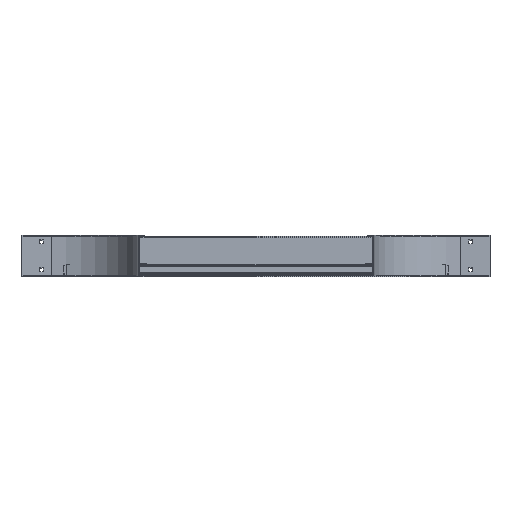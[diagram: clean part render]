
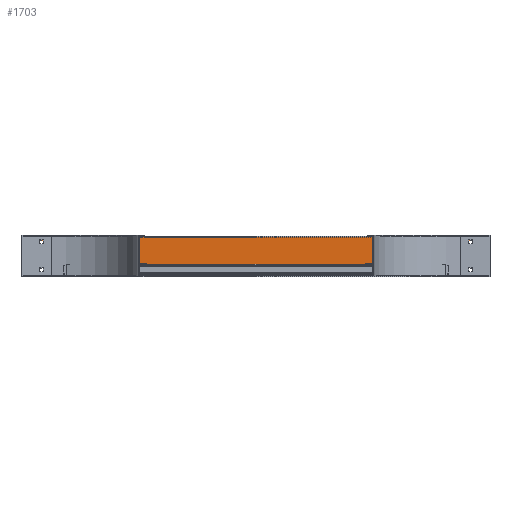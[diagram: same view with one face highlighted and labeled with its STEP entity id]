
A CAD part, top view. The second image highlights one B-rep face of the part: STEP entity #1703.
In plain terms, the highlighted planar face has unit normal (0, 0, 1) as drawn and (0, 1, 0) by its records, which use the part's own axes.
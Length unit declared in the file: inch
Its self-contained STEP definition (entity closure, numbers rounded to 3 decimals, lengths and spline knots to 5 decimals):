
#1161=DIRECTION('',(-1.,0.,0.));
#1162=VECTOR('',#1161,3.995);
#1163=CARTESIAN_POINT('',(-0.09,0.09,-24.09));
#1164=LINE('',#1163,#1162);
#1253=DIRECTION('',(0.,0.,1.));
#1254=VECTOR('',#1253,48.18);
#1255=CARTESIAN_POINT('',(-4.085,0.09,-24.09));
#1256=LINE('',#1255,#1254);
#1257=DIRECTION('',(0.,0.,1.));
#1258=VECTOR('',#1257,48.18);
#1259=CARTESIAN_POINT('',(-0.09,0.09,-24.09));
#1260=LINE('',#1259,#1258);
#1261=DIRECTION('',(0.,0.,1.));
#1262=VECTOR('',#1261,0.41);
#1263=CARTESIAN_POINT('',(-0.465,0.09,-22.335));
#1264=LINE('',#1263,#1262);
#1265=DIRECTION('',(1.,0.,0.));
#1266=VECTOR('',#1265,0.41);
#1267=CARTESIAN_POINT('',(-0.875,0.09,-22.335));
#1268=LINE('',#1267,#1266);
#1269=DIRECTION('',(0.,0.,-1.));
#1270=VECTOR('',#1269,0.41);
#1271=CARTESIAN_POINT('',(-0.875,0.09,-21.925));
#1272=LINE('',#1271,#1270);
#1273=DIRECTION('',(-1.,0.,0.));
#1274=VECTOR('',#1273,0.41);
#1275=CARTESIAN_POINT('',(-0.465,0.09,-21.925));
#1276=LINE('',#1275,#1274);
#1277=DIRECTION('',(1.,0.,0.));
#1278=VECTOR('',#1277,0.41);
#1279=CARTESIAN_POINT('',(-3.71,0.09,-22.335));
#1280=LINE('',#1279,#1278);
#1281=DIRECTION('',(0.,0.,-1.));
#1282=VECTOR('',#1281,0.41);
#1283=CARTESIAN_POINT('',(-3.71,0.09,-21.925));
#1284=LINE('',#1283,#1282);
#1285=DIRECTION('',(-1.,0.,0.));
#1286=VECTOR('',#1285,0.41);
#1287=CARTESIAN_POINT('',(-3.3,0.09,-21.925));
#1288=LINE('',#1287,#1286);
#1289=DIRECTION('',(0.,0.,1.));
#1290=VECTOR('',#1289,0.41);
#1291=CARTESIAN_POINT('',(-3.3,0.09,-22.335));
#1292=LINE('',#1291,#1290);
#1293=DIRECTION('',(0.,0.,-1.));
#1294=VECTOR('',#1293,0.41);
#1295=CARTESIAN_POINT('',(-0.465,0.09,22.335));
#1296=LINE('',#1295,#1294);
#1297=DIRECTION('',(-1.,0.,0.));
#1298=VECTOR('',#1297,0.41);
#1299=CARTESIAN_POINT('',(-0.465,0.09,21.925));
#1300=LINE('',#1299,#1298);
#1301=DIRECTION('',(0.,0.,1.));
#1302=VECTOR('',#1301,0.41);
#1303=CARTESIAN_POINT('',(-0.875,0.09,21.925));
#1304=LINE('',#1303,#1302);
#1305=DIRECTION('',(1.,0.,0.));
#1306=VECTOR('',#1305,0.41);
#1307=CARTESIAN_POINT('',(-0.875,0.09,22.335));
#1308=LINE('',#1307,#1306);
#1309=DIRECTION('',(1.,0.,0.));
#1310=VECTOR('',#1309,0.41);
#1311=CARTESIAN_POINT('',(-3.71,0.09,22.335));
#1312=LINE('',#1311,#1310);
#1313=DIRECTION('',(0.,0.,-1.));
#1314=VECTOR('',#1313,0.41);
#1315=CARTESIAN_POINT('',(-3.3,0.09,22.335));
#1316=LINE('',#1315,#1314);
#1317=DIRECTION('',(-1.,0.,0.));
#1318=VECTOR('',#1317,0.41);
#1319=CARTESIAN_POINT('',(-3.3,0.09,21.925));
#1320=LINE('',#1319,#1318);
#1321=DIRECTION('',(0.,0.,1.));
#1322=VECTOR('',#1321,0.41);
#1323=CARTESIAN_POINT('',(-3.71,0.09,21.925));
#1324=LINE('',#1323,#1322);
#1353=DIRECTION('',(-1.,0.,0.));
#1354=VECTOR('',#1353,3.995);
#1355=CARTESIAN_POINT('',(-0.09,0.09,24.09));
#1356=LINE('',#1355,#1354);
#1441=CARTESIAN_POINT('',(-0.09,0.09,-24.09));
#1442=VERTEX_POINT('',#1441);
#1443=CARTESIAN_POINT('',(-4.085,0.09,-24.09));
#1444=VERTEX_POINT('',#1443);
#1457=CARTESIAN_POINT('',(-0.09,0.09,24.09));
#1458=VERTEX_POINT('',#1457);
#1459=CARTESIAN_POINT('',(-4.085,0.09,24.09));
#1460=VERTEX_POINT('',#1459);
#1466=CARTESIAN_POINT('',(-0.465,0.09,-22.335));
#1468=VERTEX_POINT('',#1466);
#1470=CARTESIAN_POINT('',(-0.465,0.09,-21.925));
#1472=VERTEX_POINT('',#1470);
#1474=CARTESIAN_POINT('',(-0.875,0.09,-21.925));
#1476=VERTEX_POINT('',#1474);
#1478=CARTESIAN_POINT('',(-0.875,0.09,-22.335));
#1480=VERTEX_POINT('',#1478);
#1482=CARTESIAN_POINT('',(-3.71,0.09,-22.335));
#1484=VERTEX_POINT('',#1482);
#1486=CARTESIAN_POINT('',(-3.3,0.09,-22.335));
#1488=VERTEX_POINT('',#1486);
#1490=CARTESIAN_POINT('',(-3.3,0.09,-21.925));
#1492=VERTEX_POINT('',#1490);
#1494=CARTESIAN_POINT('',(-3.71,0.09,-21.925));
#1496=VERTEX_POINT('',#1494);
#1498=CARTESIAN_POINT('',(-0.465,0.09,22.335));
#1500=VERTEX_POINT('',#1498);
#1502=CARTESIAN_POINT('',(-0.465,0.09,21.925));
#1504=VERTEX_POINT('',#1502);
#1506=CARTESIAN_POINT('',(-0.875,0.09,21.925));
#1508=VERTEX_POINT('',#1506);
#1510=CARTESIAN_POINT('',(-0.875,0.09,22.335));
#1512=VERTEX_POINT('',#1510);
#1514=CARTESIAN_POINT('',(-3.71,0.09,22.335));
#1516=VERTEX_POINT('',#1514);
#1518=CARTESIAN_POINT('',(-3.3,0.09,22.335));
#1520=VERTEX_POINT('',#1518);
#1522=CARTESIAN_POINT('',(-3.3,0.09,21.925));
#1524=VERTEX_POINT('',#1522);
#1526=CARTESIAN_POINT('',(-3.71,0.09,21.925));
#1528=VERTEX_POINT('',#1526);
#1650=CARTESIAN_POINT('',(-0.09,0.09,-24.09));
#1651=DIRECTION('',(0.,1.,0.));
#1652=DIRECTION('',(-1.,0.,0.));
#1653=AXIS2_PLACEMENT_3D('',#1650,#1651,#1652);
#1654=PLANE('',#1653);
#1655=ORIENTED_EDGE('',*,*,#1542,.F.);
#1657=ORIENTED_EDGE('',*,*,#1656,.T.);
#1659=ORIENTED_EDGE('',*,*,#1658,.T.);
#1660=ORIENTED_EDGE('',*,*,#1642,.F.);
#1661=EDGE_LOOP('',(#1655,#1657,#1659,#1660));
#1662=FACE_OUTER_BOUND('',#1661,.F.);
#1664=ORIENTED_EDGE('',*,*,#1663,.F.);
#1666=ORIENTED_EDGE('',*,*,#1665,.F.);
#1668=ORIENTED_EDGE('',*,*,#1667,.F.);
#1670=ORIENTED_EDGE('',*,*,#1669,.F.);
#1671=EDGE_LOOP('',(#1664,#1666,#1668,#1670));
#1672=FACE_BOUND('',#1671,.F.);
#1674=ORIENTED_EDGE('',*,*,#1673,.F.);
#1676=ORIENTED_EDGE('',*,*,#1675,.F.);
#1678=ORIENTED_EDGE('',*,*,#1677,.F.);
#1680=ORIENTED_EDGE('',*,*,#1679,.F.);
#1681=EDGE_LOOP('',(#1674,#1676,#1678,#1680));
#1682=FACE_BOUND('',#1681,.F.);
#1684=ORIENTED_EDGE('',*,*,#1683,.T.);
#1686=ORIENTED_EDGE('',*,*,#1685,.T.);
#1688=ORIENTED_EDGE('',*,*,#1687,.T.);
#1690=ORIENTED_EDGE('',*,*,#1689,.T.);
#1691=EDGE_LOOP('',(#1684,#1686,#1688,#1690));
#1692=FACE_BOUND('',#1691,.F.);
#1694=ORIENTED_EDGE('',*,*,#1693,.T.);
#1696=ORIENTED_EDGE('',*,*,#1695,.T.);
#1698=ORIENTED_EDGE('',*,*,#1697,.T.);
#1700=ORIENTED_EDGE('',*,*,#1699,.T.);
#1701=EDGE_LOOP('',(#1694,#1696,#1698,#1700));
#1702=FACE_BOUND('',#1701,.F.);
#1703=ADVANCED_FACE('',(#1662,#1672,#1682,#1692,#1702),#1654,.T.);
#1542=EDGE_CURVE('',#1442,#1444,#1164,.T.);
#1642=EDGE_CURVE('',#1444,#1460,#1256,.T.);
#1656=EDGE_CURVE('',#1442,#1458,#1260,.T.);
#1658=EDGE_CURVE('',#1458,#1460,#1356,.T.);
#1663=EDGE_CURVE('',#1468,#1472,#1264,.T.);
#1665=EDGE_CURVE('',#1480,#1468,#1268,.T.);
#1667=EDGE_CURVE('',#1476,#1480,#1272,.T.);
#1669=EDGE_CURVE('',#1472,#1476,#1276,.T.);
#1673=EDGE_CURVE('',#1484,#1488,#1280,.T.);
#1675=EDGE_CURVE('',#1496,#1484,#1284,.T.);
#1677=EDGE_CURVE('',#1492,#1496,#1288,.T.);
#1679=EDGE_CURVE('',#1488,#1492,#1292,.T.);
#1683=EDGE_CURVE('',#1500,#1504,#1296,.T.);
#1685=EDGE_CURVE('',#1504,#1508,#1300,.T.);
#1687=EDGE_CURVE('',#1508,#1512,#1304,.T.);
#1689=EDGE_CURVE('',#1512,#1500,#1308,.T.);
#1693=EDGE_CURVE('',#1516,#1520,#1312,.T.);
#1695=EDGE_CURVE('',#1520,#1524,#1316,.T.);
#1697=EDGE_CURVE('',#1524,#1528,#1320,.T.);
#1699=EDGE_CURVE('',#1528,#1516,#1324,.T.);
